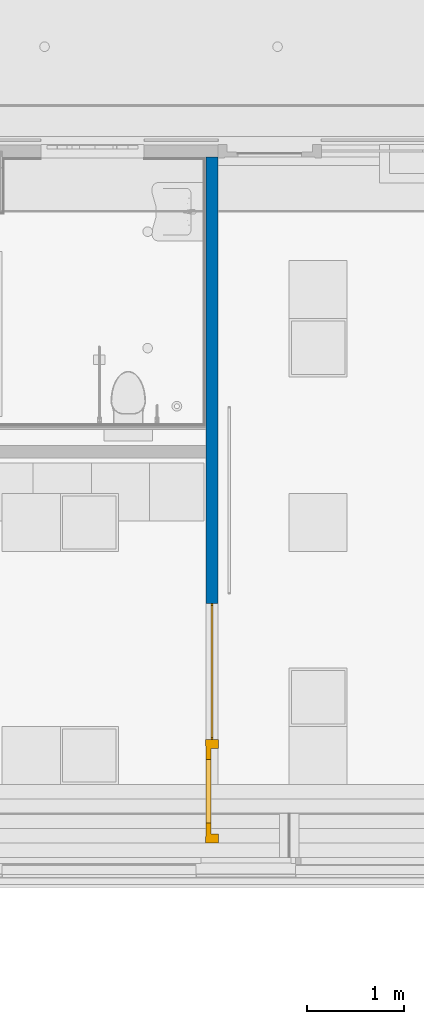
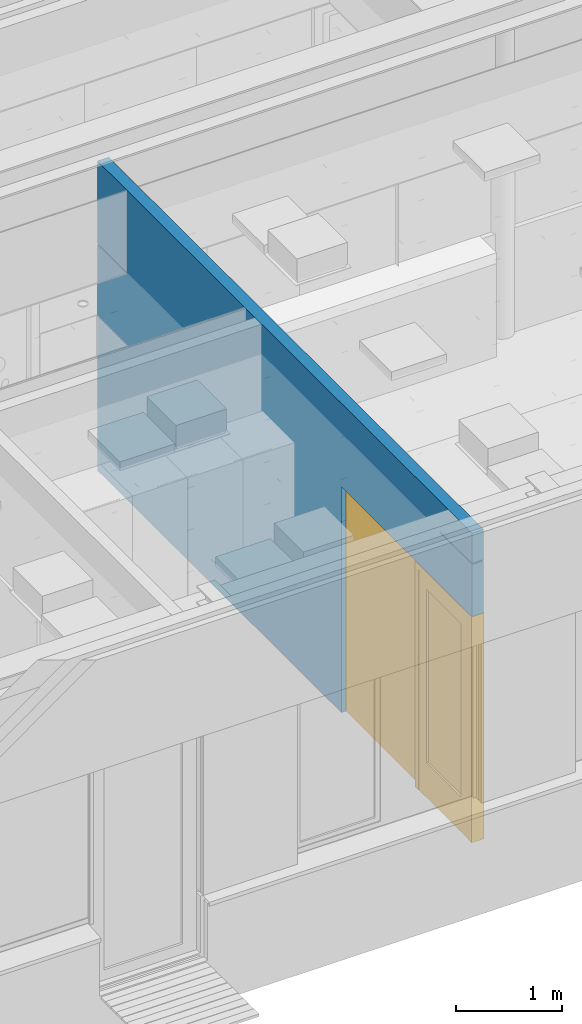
# One storey, part 42 of 347: 1 door, 1 wall, 1 window, 2 openings.
"""IFC2X3 building model written with IfcOpenShell, lengths in millimetres."""

from ifc_helpers import new_model, entity, si_unit, converted_unit, derived_unit, money_unit, direction, frame, origin_with_axes, place, context, subcontext, project, spatial, open_shell, faceted_brep, surface_model, source, transform, mapped, material, type_object, type_shapes, element, fill, save


model = new_model("IFC2X3")

# Units and contexts
model_context = context("Model", 3, precision=0.01, world=origin_with_axes(), true_north=direction((0.0, 1.0)))
plan_context = context("Plan", 3, precision=0.01, world=origin_with_axes(), true_north=direction((0.0, 1.0)))
body_context = subcontext(model_context, "Body", "Model", "MODEL_VIEW")
ifc_project = project(units=[si_unit("LENGTHUNIT", "METRE", prefix="MILLI"), si_unit("AREAUNIT", "SQUARE_METRE"), si_unit("VOLUMEUNIT", "CUBIC_METRE"), converted_unit("PLANEANGLEUNIT", "DEGREE", entity("IfcPlaneAngleMeasure", 0.0174532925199), si_unit("PLANEANGLEUNIT", "RADIAN"), dimensions=[0, 0, 0, 0, 0, 0, 0]), money_unit("EUR"), converted_unit("TIMEUNIT", "Year", entity("IfcTimeMeasure", 31556926.0), si_unit("TIMEUNIT", "SECOND"), dimensions=[0, 0, 1, 0, 0, 0, 0]), si_unit("MASSUNIT", "GRAM", prefix="KILO"), si_unit("THERMODYNAMICTEMPERATUREUNIT", "DEGREE_CELSIUS"), si_unit("LUMINOUSINTENSITYUNIT", "LUMEN"), si_unit("ENERGYUNIT", "JOULE", prefix="MEGA"), derived_unit("THERMALCONDUCTANCEUNIT", [(si_unit("POWERUNIT", "WATT"), 1), (si_unit("LENGTHUNIT", "METRE"), -1), (si_unit("THERMODYNAMICTEMPERATUREUNIT", "KELVIN"), -1)]), derived_unit("SPECIFICHEATCAPACITYUNIT", [(si_unit("ENERGYUNIT", "JOULE"), 1), (si_unit("MASSUNIT", "GRAM", prefix="KILO"), -1), (si_unit("THERMODYNAMICTEMPERATUREUNIT", "KELVIN"), -1)]), derived_unit("MASSDENSITYUNIT", [(si_unit("MASSUNIT", "GRAM", prefix="KILO"), 1), (si_unit("VOLUMEUNIT", "CUBIC_METRE"), -1)])], contexts=[model_context, plan_context])

# Site, building, storey
site_placement = place(None, origin_with_axes())
site = spatial("IfcSite", under=ifc_project, at=site_placement, Name="Site", CompositionType="ELEMENT")
building_placement = place(site_placement, origin_with_axes())
building = spatial("IfcBuilding", under=site, at=building_placement, Name="Naam gebouw", CompositionType="ELEMENT")
storey_placement = place(building_placement, origin_with_axes())
storey = spatial("IfcBuildingStorey", under=building, at=storey_placement, Name="begane grond", CompositionType="ELEMENT", Elevation=0.0)

# Wall, openings, window, door
ifc_material = material(Name="ALG - LICHTE SCHEIDINGSWAND")
wall_type = type_object("IfcWallType", Name="ALG LSW 125 125", PredefinedType="NOTDEFINED")
wall_placement = place(storey_placement, frame((27300.0, 12125.0, 0.0), z_axis=(0.0, 0.0, 1.0), x_axis=(0.0, -1.0, 0.0)))
wall = element("IfcWall", 1, at=wall_placement, inside=storey, type_object=wall_type, material=ifc_material, Name="22_GF 125 ECO DGS/2.75.3A", context=body_context, shape_type="Brep", body=[
    faceted_brep([(7125.00000221, 125.0, 2600.0), (6061.00000221, 125.0, 2600.0), (4661.00000221, 125.0, 2600.0), (4661.00000221, 125.0, 0.0), (62.5, 125.0, 0.0), (62.5, 125.0, 2600.0), (625.00002799, 125.0, 2600.0), (625.00002799, 125.0, 2612.0), (62.5, 125.0, 2612.0), (62.5, 125.0, 3560.0), (7125.00000221, 125.0, 3560.0), (7125.00002799, 125.0, 3212.0), (6525.00002799, 125.0, 3212.0), (6525.00002799, 125.0, 3200.0), (7125.00002799, 125.0, 3200.0), (6061.00000221, 0.0, 2600.0), (7125.00000221, 0.0, 2600.0), (4661.00000221, 0.0, 2600.0), (4661.00000221, 0.0, 0.0), (62.5, 0.0, 0.0), (62.5, 0.0, 2600.0), (625.00002799, 0.0, 2600.0), (625.00002799, 0.0, 2612.0), (62.5, 0.0, 2612.0), (62.5, 0.0, 3560.0), (7125.00000221, 0.0, 3560.0), (7125.00002799, 0.0, 3212.0), (6525.00002799, 0.0, 3212.0), (6525.00002799, 0.0, 3200.0), (7125.00002799, 0.0, 3200.0)], [[[0, 1, 2, 3, 4, 5, 6, 7, 8, 9, 10, 11, 12, 13, 14]], [[15, 1, 0, 16]], [[1, 15, 17, 2]], [[18, 3, 2, 17]], [[19, 4, 3, 18]], [[4, 19, 20, 5]], [[20, 21, 6, 5]], [[21, 22, 7, 6]], [[7, 22, 23, 8]], [[24, 9, 8, 23]], [[10, 9, 24, 25]], [[10, 25, 26, 11]], [[26, 27, 12, 11]], [[27, 28, 13, 12]], [[28, 29, 14, 13]], [[16, 0, 14, 29]], [[15, 16, 29, 28, 27, 26, 25, 24, 23, 22, 21, 20, 19, 18, 17]]]),
])
opening_1_placement = place(wall_placement, frame((5361.00000221, 0.0, 0.0), z_axis=(0.0, 0.0, 1.0), x_axis=(1.0, 0.0, 0.0)))
opening_1 = element("IfcOpeningElement", 2, at=opening_1_placement, cuts=wall, Name="32_10.20", context=body_context, shape_type="Brep", body=[
    faceted_brep([(-700.0, 72.5, 2600.0), (-700.0, 72.5, 0.0), (-700.0, -125.0, 0.0), (-700.0, -125.0, 2600.0), (700.0, 72.5, 2600.0), (700.0, 72.5, 0.0), (700.0, -125.0, 0.0), (700.0, -125.0, 2600.0)], [[[0, 1, 2, 3]], [[0, 4, 5, 1]], [[1, 5, 6, 2]], [[3, 2, 6, 7]], [[4, 0, 3, 7]], [[5, 4, 7, 6]]]),
    faceted_brep([(-700.0, 72.5, 0.0), (-700.0, 72.5, 2600.0), (-700.0, 250.0, 2600.0), (-700.0, 250.0, 0.0), (700.0, 72.5, 0.0), (700.0, 72.5, 2600.0), (700.0, 250.0, 2600.0), (700.0, 250.0, 0.0)], [[[0, 1, 2, 3]], [[0, 4, 5, 1]], [[1, 5, 6, 2]], [[3, 2, 6, 7]], [[4, 0, 3, 7]], [[5, 4, 7, 6]]]),
])
opening_2_placement = place(wall_placement, frame((6593.00000221, 0.0, 0.0), z_axis=(0.0, 0.0, 1.0), x_axis=(1.0, 0.0, 0.0)))
opening_2 = element("IfcOpeningElement", 3, at=opening_2_placement, cuts=wall, Name="32_01.01", context=body_context, shape_type="Brep", body=[
    faceted_brep([(532.0, -257.0, 2600.0), (532.0, -257.0, 0.0), (532.0, 125.0, 0.0), (532.0, 125.0, 2600.0), (-532.0, -257.0, 2600.0), (-532.0, -257.0, 0.0), (-532.0, 125.0, 0.0), (-532.0, 125.0, 2600.0)], [[[0, 1, 2, 3]], [[0, 4, 5, 1]], [[1, 5, 6, 2]], [[3, 2, 6, 7]], [[4, 0, 3, 7]], [[5, 4, 7, 6]]]),
])
window_style = type_object("IfcWindowStyle", Name="R1 25", ConstructionType="NOTDEFINED", OperationType="SINGLE_PANEL", ParameterTakesPrecedence=False, Sizeable=False)
window_placement = place(opening_1_placement, frame((-700.0, 0.0, 0.0), z_axis=(0.0, 0.0, 1.0), x_axis=(1.0, 0.0, 0.0)))
window = element("IfcWindow", 4, at=window_placement, inside=storey, type_object=window_style, Name="32_10.20", ObjectType="WINDOW", OverallHeight=2600.0, OverallWidth=1400.0, context=body_context, shape_type="SurfaceModel", body=[
    faceted_brep([(1380.0, 52.5, 2580.0), (1400.0, 52.5, 2580.0), (1400.0, 72.5, 2580.0), (1380.0, 72.5, 2580.0), (1380.0, 52.5, 20.0), (1400.0, 52.5, 20.0), (1400.0, 72.5, 20.0), (1380.0, 72.5, 20.0)], [[[0, 1, 2, 3]], [[0, 4, 5, 1]], [[1, 5, 6, 2]], [[3, 2, 6, 7]], [[4, 0, 3, 7]], [[5, 4, 7, 6]]]),
    faceted_brep([(20.0, 52.5, 20.0), (0.0, 52.5, 20.0), (0.0, 72.5, 20.0), (20.0, 72.5, 20.0), (20.0, 52.5, 2580.0), (0.0, 52.5, 2580.0), (0.0, 72.5, 2580.0), (20.0, 72.5, 2580.0)], [[[0, 1, 2, 3]], [[0, 4, 5, 1]], [[1, 5, 6, 2]], [[3, 2, 6, 7]], [[4, 0, 3, 7]], [[5, 4, 7, 6]]]),
    faceted_brep([(1380.0, 52.5, 20.0), (1400.0, 52.5, 20.0), (1400.0, 72.5, 20.0), (1380.0, 72.5, 20.0), (20.0, 52.5, 20.0), (0.0, 52.5, 20.0), (0.0, 52.5, 0.0), (1400.0, 52.5, 0.0), (1400.0, 72.5, 0.0), (0.0, 72.5, 0.0), (0.0, 72.5, 20.0), (20.0, 72.5, 20.0)], [[[0, 1, 2, 3]], [[0, 4, 5, 6, 7, 1]], [[1, 7, 8, 2]], [[3, 2, 8, 9, 10, 11]], [[4, 0, 3, 11]], [[5, 4, 11, 10]], [[6, 5, 10, 9]], [[7, 6, 9, 8]]]),
    faceted_brep([(20.0, 52.5, 2580.0), (0.0, 52.5, 2580.0), (0.0, 72.5, 2580.0), (20.0, 72.5, 2580.0), (1380.0, 52.5, 2580.0), (1400.0, 52.5, 2580.0), (1400.0, 52.5, 2600.0), (0.0, 52.5, 2600.0), (0.0, 72.5, 2600.0), (1400.0, 72.5, 2600.0), (1400.0, 72.5, 2580.0), (1380.0, 72.5, 2580.0)], [[[0, 1, 2, 3]], [[0, 4, 5, 6, 7, 1]], [[1, 7, 8, 2]], [[3, 2, 8, 9, 10, 11]], [[4, 0, 3, 11]], [[5, 4, 11, 10]], [[6, 5, 10, 9]], [[7, 6, 9, 8]]]),
    surface_model("IfcShellBasedSurfaceModel", [(1380.0, 52.5, 20.0), (1380.0, 52.5, 2580.0), (20.0, 52.5, 2580.0), (20.0, 52.5, 20.0)], [open_shell([[[0, 1, 2, 3]]])]),
    surface_model("IfcShellBasedSurfaceModel", [(1380.0, 72.5, 20.0), (20.0, 72.5, 20.0), (20.0, 72.5, 2580.0), (1380.0, 72.5, 2580.0)], [open_shell([[[0, 1, 2, 3]]])]),
])
fill(opening_1, window)
door_style = type_object("IfcDoorStyle", Name="D1 25", ConstructionType="NOTDEFINED", OperationType="SINGLE_SWING_LEFT", ParameterTakesPrecedence=False, Sizeable=False)
shared_shape = source(origin_with_axes(), body_context, "Body", "SurfaceModel", [
    faceted_brep([(442.0, -60.0, 0.0), (442.0, -139.0, 0.0), (442.0, -139.0, 2510.0), (442.0, -60.0, 2510.0), (467.0, -60.0, 0.0), (467.0, 0.0, 0.0), (532.0, 0.0, 0.0), (532.0, -139.0, 0.0), (532.0, -139.0, 2510.0), (467.0, -60.0, 2510.0), (532.0, 0.0, 2510.0), (467.0, 0.0, 2510.0)], [[[0, 1, 2, 3]], [[4, 5, 6, 7, 1, 0]], [[1, 7, 8, 2]], [[9, 3, 2, 8, 10, 11]], [[9, 4, 0, 3]], [[11, 5, 4, 9]], [[11, 10, 6, 5]], [[6, 10, 8, 7]]]),
    faceted_brep([(-467.0, -60.0, 2510.0), (-467.0, 0.0, 2510.0), (-532.0, 0.0, 2510.0), (-532.0, -139.0, 2510.0), (-442.0, -139.0, 2510.0), (-442.0, -60.0, 2510.0), (-467.0, -60.0, 0.0), (-467.0, 0.0, 0.0), (-532.0, 0.0, 0.0), (-532.0, -139.0, 0.0), (-442.0, -139.0, 0.0), (-442.0, -60.0, 0.0)], [[[0, 1, 2, 3, 4, 5]], [[0, 6, 7, 1]], [[7, 8, 2, 1]], [[2, 8, 9, 3]], [[3, 9, 10, 4]], [[5, 4, 10, 11]], [[5, 11, 6, 0]], [[6, 11, 10, 9, 8, 7]]]),
    faceted_brep([(467.0, 0.0, 2535.0), (-467.0, 0.0, 2535.0), (-467.0, 0.0, 2510.0), (-532.0, 0.0, 2510.0), (-532.0, 0.0, 2600.0), (532.0, 0.0, 2600.0), (532.0, 0.0, 2510.0), (467.0, 0.0, 2510.0), (467.0, -60.0, 2535.0), (-467.0, -60.0, 2535.0), (-467.0, -60.0, 2510.0), (-442.0, -60.0, 2510.0), (-442.0, -139.0, 2510.0), (-532.0, -139.0, 2510.0), (-532.0, -139.0, 2600.0), (532.0, -139.0, 2600.0), (532.0, -139.0, 2510.0), (467.0, -60.0, 2510.0), (442.0, -139.0, 2510.0), (442.0, -60.0, 2510.0)], [[[0, 1, 2, 3, 4, 5, 6, 7]], [[0, 8, 9, 1]], [[1, 9, 10, 2]], [[10, 11, 12, 13, 3, 2]], [[4, 3, 13, 14]], [[5, 4, 14, 15]], [[6, 5, 15, 16]], [[17, 7, 6, 16, 18, 19]], [[7, 17, 8, 0]], [[10, 9, 8, 17, 19, 11]], [[19, 18, 12, 11]], [[12, 18, 16, 15, 14, 13]]]),
    faceted_brep([(-467.0, -6.0, 400.0), (-327.0, -6.0, 400.0), (-327.0, -60.0, 400.0), (-467.0, -60.0, 400.0), (-467.0, -6.0, 2395.0), (-327.0, -6.0, 2395.0), (-327.0, -60.0, 2395.0), (-467.0, -60.0, 2395.0)], [[[0, 1, 2, 3]], [[0, 4, 5, 1]], [[1, 5, 6, 2]], [[3, 2, 6, 7]], [[4, 0, 3, 7]], [[5, 4, 7, 6]]]),
    faceted_brep([(467.0, -6.0, 400.0), (467.0, -6.0, 2395.0), (467.0, -60.0, 2395.0), (467.0, -60.0, 400.0), (327.0, -6.0, 400.0), (327.0, -6.0, 2395.0), (327.0, -60.0, 2395.0), (327.0, -60.0, 400.0)], [[[0, 1, 2, 3]], [[0, 4, 5, 1]], [[1, 5, 6, 2]], [[3, 2, 6, 7]], [[4, 0, 3, 7]], [[5, 4, 7, 6]]]),
    faceted_brep([(-467.0, -6.0, 0.0), (467.0, -6.0, 0.0), (467.0, -60.0, 0.0), (-467.0, -60.0, 0.0), (-467.0, -6.0, 400.0), (-327.0, -6.0, 400.0), (327.0, -6.0, 400.0), (467.0, -6.0, 400.0), (467.0, -60.0, 400.0), (327.0, -60.0, 400.0), (-327.0, -60.0, 400.0), (-467.0, -60.0, 400.0)], [[[0, 1, 2, 3]], [[0, 4, 5, 6, 7, 1]], [[1, 7, 8, 2]], [[3, 2, 8, 9, 10, 11]], [[4, 0, 3, 11]], [[5, 4, 11, 10]], [[6, 5, 10, 9]], [[7, 6, 9, 8]]]),
    faceted_brep([(-467.0, -6.0, 2535.0), (-467.0, -6.0, 2395.0), (-467.0, -60.0, 2395.0), (-467.0, -60.0, 2535.0), (467.0, -6.0, 2535.0), (467.0, -6.0, 2395.0), (327.0, -6.0, 2395.0), (-327.0, -6.0, 2395.0), (-327.0, -60.0, 2395.0), (327.0, -60.0, 2395.0), (467.0, -60.0, 2395.0), (467.0, -60.0, 2535.0)], [[[0, 1, 2, 3]], [[0, 4, 5, 6, 7, 1]], [[1, 7, 8, 2]], [[3, 2, 8, 9, 10, 11]], [[4, 0, 3, 11]], [[5, 4, 11, 10]], [[6, 5, 10, 9]], [[7, 6, 9, 8]]]),
    surface_model("IfcShellBasedSurfaceModel", [(-327.0, -27.0, 400.0), (-327.0, -27.0, 2395.0), (327.0, -27.0, 2395.0), (327.0, -27.0, 400.0)], [open_shell([[[0, 1, 2, 3]]])]),
    surface_model("IfcShellBasedSurfaceModel", [(-327.0, -39.0, 400.0), (327.0, -39.0, 400.0), (327.0, -39.0, 2395.0), (-327.0, -39.0, 2395.0)], [open_shell([[[0, 1, 2, 3]]])]),
])
type_shapes(door_style, [shared_shape])
door_placement = place(opening_2_placement, frame((532.0, 0.0, 0.0), z_axis=(0.0, 0.0, 1.0), x_axis=(-1.0, 0.0, 0.0)))
door = element("IfcDoor", 5, at=door_placement, inside=storey, type_object=door_style, Name="32_01.01", ObjectType="DOOR", OverallHeight=2600.0, OverallWidth=1064.0, context=body_context, shape_type="MappedRepresentation", body=[
    mapped(shared_shape, transform((532.0, 7.0, 0.0))),
])
fill(opening_2, door)

save(model, "model.ifc")
